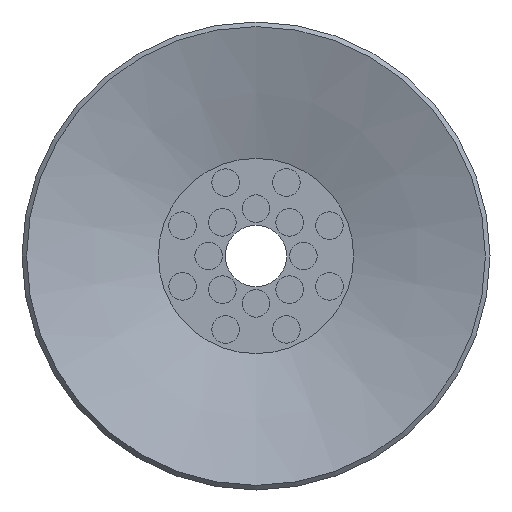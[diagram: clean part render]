
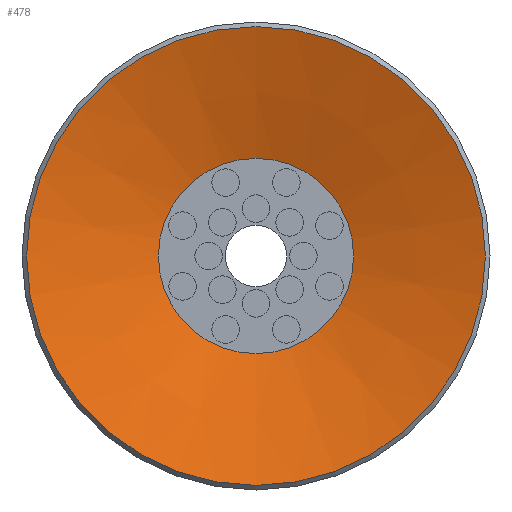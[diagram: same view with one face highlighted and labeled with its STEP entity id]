
A CAD part, front view. The second image highlights one B-rep face of the part: STEP entity #478.
In plain terms, the highlighted conical face has half-angle 72 degrees and reference radius 7.5 mm.
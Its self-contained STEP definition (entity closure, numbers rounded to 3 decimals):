
#478=ADVANCED_FACE('',(#734,#735),#736,.F.);
#734=FACE_BOUND('',#1058,.T.);
#735=FACE_OUTER_BOUND('',#1059,.T.);
#736=CONICAL_SURFACE('',#1060,7.5,1.257);
#1058=EDGE_LOOP('',(#1693));
#1059=EDGE_LOOP('',(#1694));
#1060=AXIS2_PLACEMENT_3D('',#1695,#1696,#1697);
#1693=ORIENTED_EDGE('',*,*,#2033,.T.);
#1694=ORIENTED_EDGE('',*,*,#2034,.F.);
#1695=CARTESIAN_POINT('',(0.0,0.,0.));
#1696=DIRECTION('',(0.0,0.,-1.0));
#1697=DIRECTION('',(0.0,1.0,0.));
#2033=EDGE_CURVE('',#2320,#2320,#2321,.T.);
#2034=EDGE_CURVE('',#2322,#2322,#2323,.T.);
#2320=VERTEX_POINT('',#2942);
#2321=CIRCLE('',#2943,3.191);
#2322=VERTEX_POINT('',#2944);
#2323=CIRCLE('',#2945,7.5);
#2942=CARTESIAN_POINT('',(0.0,-3.191,1.4));
#2943=AXIS2_PLACEMENT_3D('',#3257,#3258,#3259);
#2944=CARTESIAN_POINT('',(0.0,-7.5,0.));
#2945=AXIS2_PLACEMENT_3D('',#3260,#3261,#3262);
#3257=CARTESIAN_POINT('',(0.0,0.,1.4));
#3258=DIRECTION('',(0.0,0.,1.0));
#3259=DIRECTION('',(0.0,-1.0,0.));
#3260=CARTESIAN_POINT('',(0.0,0.,0.));
#3261=DIRECTION('',(0.0,0.,1.0));
#3262=DIRECTION('',(0.0,-1.0,0.));
